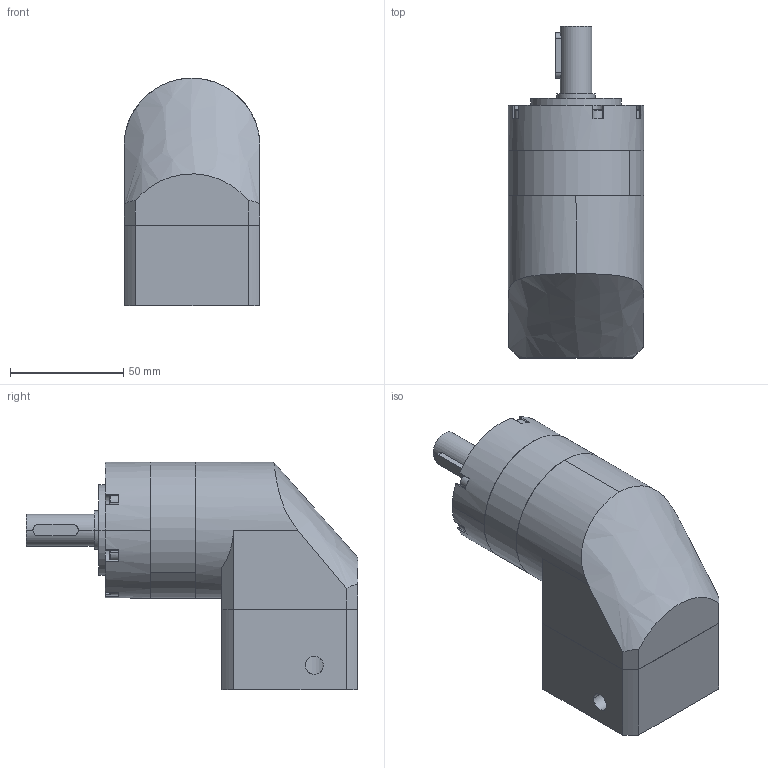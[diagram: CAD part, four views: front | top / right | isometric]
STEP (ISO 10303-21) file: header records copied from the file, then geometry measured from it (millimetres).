
FILE_DESCRIPTION (( 'STEP AP203' ), '1' );
FILE_NAME ('PVEA060-L1-14-50-70.STEP', '2022-07-27T03:50:24', ( 'Windows User' ), ( 'P R C' ), 'SwSTEP 2.0', 'SolidWorks 2016', '' );
FILE_SCHEMA (( 'CONFIG_CONTROL_DESIGN' ));
Length unit declared in the file: millimetre
Products named in the file (9): 囀鞠褒蹟佪-M5℅16; 邧埴瑩  5x5x20; PVEA060-眊极_揤翉; PVEA060 κｳﾝﾈｦ_ﾒｻｼｶﾄﾚｳﾝﾈｦ; PVEA060-L1-14-50-70; PVEA060 奻屳唳; PVEA060-薊粣; 双列角接触球轴承5203_2; PVEA060-蟀諉啣
Assembly tree (8 placements, depth 2):
  PVEA060-L1-14-50-70
    PVEA060 奻屳唳
    PVEA060-薊粣
    双列角接触球轴承5203_2
    PVEA060-蟀諉啣
    囀鞠褒蹟佪-M5℅16
    邧埴瑩  5x5x20
    PVEA060-眊极_揤翉
    PVEA060 κｳﾝﾈｦ_ﾒｻｼｶﾄﾚｳﾝﾈｦ
Bounding box: 60 x 146.5 x 100.5 mm (x, y, z)
Volume: 401462.1 mm3; surface area: 94726.8 mm2
Topology: 8 solids, 8 shells, 1054 faces, 3011 edges, 1942 vertices
Faces by surface type: plane 558, bspline 271, cylinder 187, cone 38
Entity records: 43651 total; most frequent: CARTESIAN_POINT 17215, ORIENTED_EDGE 5786, DIRECTION 4552, EDGE_CURVE 2893, VERTEX_POINT 1936, VECTOR 1630, LINE 1630, AXIS2_PLACEMENT_3D 1461
